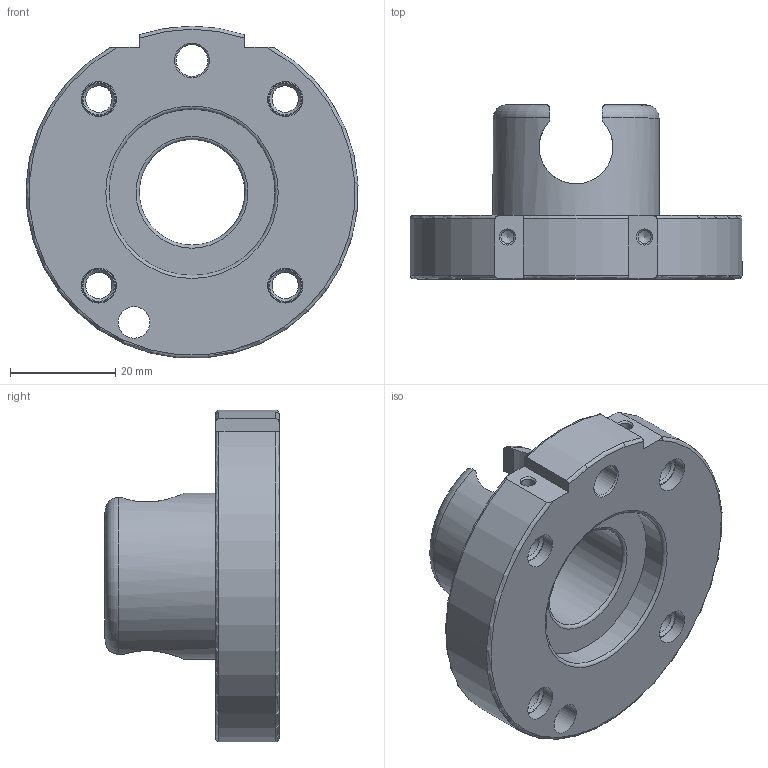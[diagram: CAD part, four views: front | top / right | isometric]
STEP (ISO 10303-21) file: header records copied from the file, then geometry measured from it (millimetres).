
FILE_DESCRIPTION(/* description */ (''),/* implementation_level */ '2;1');
FILE_NAME(/* name */ 'G-SHW063-2UE-M6.stp',/* time_stamp */ '2024-07-08T15:08:19+02:00',/* author */ ('ysplieth'),/* organization */ (''),/* preprocessor_version */ 'ST-DEVELOPER v20',/* originating_system */ 'Autodesk Inventor 2024',/* authorisation */ '');
FILE_SCHEMA (('AUTOMOTIVE_DESIGN { 1 0 10303 214 3 1 1 }'));
Length unit declared in the file: millimetre
Products named in the file (1): Bauteil3
Bounding box: 62.94 x 33 x 62.89 mm (x, y, z)
Volume: 35947.8 mm3; surface area: 14668 mm2
Topology: 1 solids, 1 shells, 153 faces, 395 edges, 261 vertices
Faces by surface type: plane 73, cone 39, cylinder 31, torus 10
Full cylindrical faces by diameter (mm): 2.459 x2, 5 x4, 6 x2, 6.5 x4, 6.647 x4, 10.8 x4, 11 x4, 20 x1, 31.5 x2
Entity records: 5134 total; most frequent: CARTESIAN_POINT 1246, ORIENTED_EDGE 786, DIRECTION 754, EDGE_CURVE 393, AXIS2_PLACEMENT_3D 299, VERTEX_POINT 261, EDGE_LOOP 186, LINE 156
